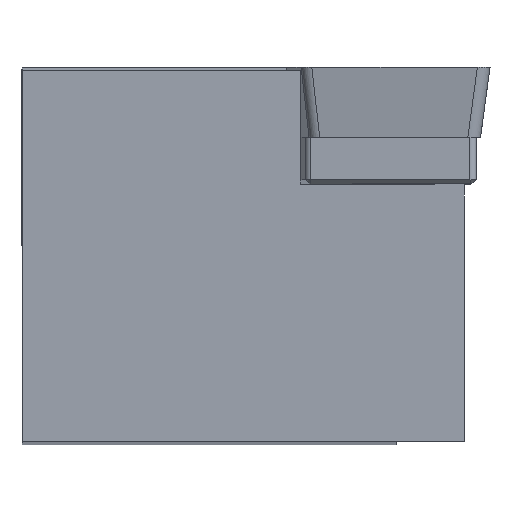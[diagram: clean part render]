
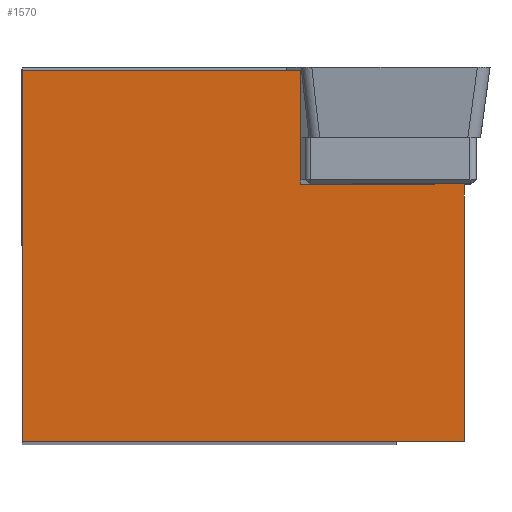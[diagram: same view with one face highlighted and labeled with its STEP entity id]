
A CAD part, top view. The second image highlights one B-rep face of the part: STEP entity #1570.
In plain terms, the highlighted planar face has unit normal (-0.087, 0, 0.996).
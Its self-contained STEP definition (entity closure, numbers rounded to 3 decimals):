
#12 = LINE ( 'NONE', #256, #55 ) ;
#55 = VECTOR ( 'NONE', #680, 1000. ) ;
#84 = CARTESIAN_POINT ( 'NONE',  ( -15.875, -12.7, -3.157 ) ) ;
#123 = DIRECTION ( 'NONE',  ( 0.087, 0., -0.996 ) ) ;
#145 = EDGE_CURVE ( 'NONE', #1011, #782, #612, .T. ) ;
#256 = CARTESIAN_POINT ( 'NONE',  ( -15.875, 12.7, -3.157 ) ) ;
#286 = VERTEX_POINT ( 'NONE', #828 ) ;
#309 = EDGE_CURVE ( 'NONE', #286, #836, #1624, .T. ) ;
#348 = CARTESIAN_POINT ( 'NONE',  ( -15.875, 12.5, -3.157 ) ) ;
#449 = DIRECTION ( 'NONE',  ( -0.996, 0., -0.087 ) ) ;
#511 = CARTESIAN_POINT ( 'NONE',  ( 3.018, 4.76, -1.504 ) ) ;
#520 = CARTESIAN_POINT ( 'NONE',  ( -20.706, -12.7, -3.579 ) ) ;
#537 = DIRECTION ( 'NONE',  ( -0.996, 0., -0.087 ) ) ;
#597 = VERTEX_POINT ( 'NONE', #1592 ) ;
#612 = LINE ( 'NONE', #1148, #1088 ) ;
#680 = DIRECTION ( 'NONE',  ( 0., -1., 0. ) ) ;
#782 = VERTEX_POINT ( 'NONE', #511 ) ;
#828 = CARTESIAN_POINT ( 'NONE',  ( 3.018, 12.5, -1.504 ) ) ;
#836 = VERTEX_POINT ( 'NONE', #348 ) ;
#864 = ORIENTED_EDGE ( 'NONE', *, *, #1383, .F. ) ;
#870 = LINE ( 'NONE', #520, #1006 ) ;
#885 = ORIENTED_EDGE ( 'NONE', *, *, #309, .T. ) ;
#993 = PLANE ( 'NONE',  #1311 ) ;
#999 = VERTEX_POINT ( 'NONE', #84 ) ;
#1004 = DIRECTION ( 'NONE',  ( -0.996, 0., -0.087 ) ) ;
#1006 = VECTOR ( 'NONE', #1090, 1000. ) ;
#1011 = VERTEX_POINT ( 'NONE', #1625 ) ;
#1031 = VECTOR ( 'NONE', #1234, 1000. ) ;
#1088 = VECTOR ( 'NONE', #1004, 1000. ) ;
#1090 = DIRECTION ( 'NONE',  ( -0.996, 0., -0.087 ) ) ;
#1134 = VECTOR ( 'NONE', #1496, 1000. ) ;
#1148 = CARTESIAN_POINT ( 'NONE',  ( 1.085, 4.76, -1.673 ) ) ;
#1188 = CARTESIAN_POINT ( 'NONE',  ( -20.706, 12.5, -3.579 ) ) ;
#1189 = CARTESIAN_POINT ( 'NONE',  ( 3.018, 10.07, -1.504 ) ) ;
#1192 = ORIENTED_EDGE ( 'NONE', *, *, #145, .T. ) ;
#1198 = ORIENTED_EDGE ( 'NONE', *, *, #1414, .T. ) ;
#1234 = DIRECTION ( 'NONE',  ( 0., -1., 0. ) ) ;
#1278 = ORIENTED_EDGE ( 'NONE', *, *, #1305, .F. ) ;
#1305 = EDGE_CURVE ( 'NONE', #597, #999, #870, .T. ) ;
#1311 = AXIS2_PLACEMENT_3D ( 'NONE', #1389, #123, #537 ) ;
#1347 = VECTOR ( 'NONE', #449, 1000. ) ;
#1350 = FACE_OUTER_BOUND ( 'NONE', #1524, .T. ) ;
#1368 = CARTESIAN_POINT ( 'NONE',  ( 14.145, -12.7, -0.53 ) ) ;
#1383 = EDGE_CURVE ( 'NONE', #286, #782, #1411, .T. ) ;
#1389 = CARTESIAN_POINT ( 'NONE',  ( -20.706, -12.7, -3.579 ) ) ;
#1411 = LINE ( 'NONE', #1189, #1031 ) ;
#1414 = EDGE_CURVE ( 'NONE', #597, #1011, #1629, .T. ) ;
#1496 = DIRECTION ( 'NONE',  ( 0., 1., 0. ) ) ;
#1524 = EDGE_LOOP ( 'NONE', ( #1541, #1278, #1198, #1192, #864, #885 ) ) ;
#1541 = ORIENTED_EDGE ( 'NONE', *, *, #1611, .T. ) ;
#1570 = ADVANCED_FACE ( 'NONE', ( #1350 ), #993, .F. ) ;
#1592 = CARTESIAN_POINT ( 'NONE',  ( 14.145, -12.7, -0.53 ) ) ;
#1611 = EDGE_CURVE ( 'NONE', #836, #999, #12, .T. ) ;
#1624 = LINE ( 'NONE', #1188, #1347 ) ;
#1625 = CARTESIAN_POINT ( 'NONE',  ( 14.145, 4.76, -0.53 ) ) ;
#1629 = LINE ( 'NONE', #1368, #1134 ) ;
